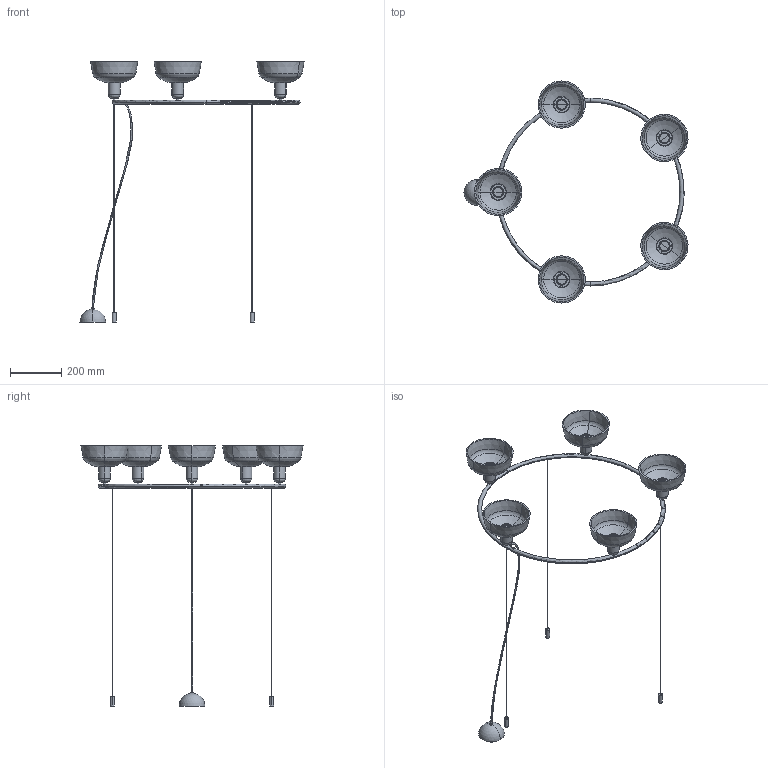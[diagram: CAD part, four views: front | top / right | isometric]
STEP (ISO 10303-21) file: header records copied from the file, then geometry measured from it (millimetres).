
FILE_DESCRIPTION(/* description */ (''),/* implementation_level */ '2;1');
FILE_NAME(/* name */ '20343-119-5L.step',/* time_stamp */ '2024-06-04T10:07:52+02:00',/* author */ ('RenataManzini'),/* organization */ (''),/* preprocessor_version */ 'ST-DEVELOPER v20',/* originating_system */ 'AutoCAD Mechanical',/* authorisation */ '');
FILE_SCHEMA (('AUTOMOTIVE_DESIGN { 1 0 10303 214 3 1 1 }'));
Length unit declared in the file: millimetre
Products named in the file (2): Product; TATAWIN_COLGANTE_CIRCULAR - Florón Multiple-462073-_3D_
Assembly tree (1 placements, depth 2):
  Product
    TATAWIN_COLGANTE_CIRCULAR - Florón Multiple-462073-_3D_
Bounding box: 872.27 x 865.04 x 1012.56 mm (x, y, z)
Volume: 1953566.1 mm3; surface area: 897794.6 mm2
Topology: 15 solids, 16 shells, 407 faces, 877 edges, 495 vertices
Faces by surface type: plane 159, cylinder 140, torus 52, bspline 32, cone 20, sphere 4
Entity records: 20387 total; most frequent: CARTESIAN_POINT 11775, DIRECTION 1815, ORIENTED_EDGE 1748, EDGE_CURVE 874, AXIS2_PLACEMENT_3D 742, VERTEX_POINT 490, EDGE_LOOP 424, FACE_OUTER_BOUND 407
